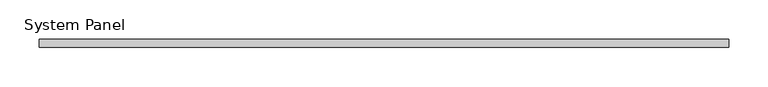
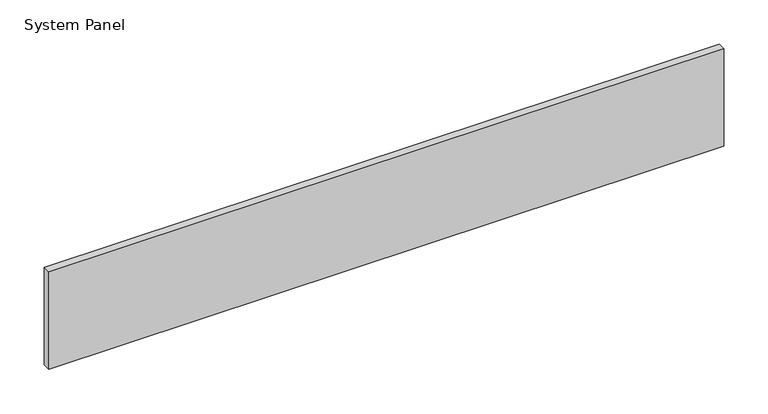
"""IFC4 building model written with IfcOpenShell, lengths in millimetres: plate geometry, System Panel : VACÍO."""

from ifc_helpers import new_model, si_unit, origin, origin_with_axes, place, context, project, spatial, polyline, outline, extrude, source, transform, mapped, element, save


def system_panel_46786032(model_context):
    return source(origin(), model_context, "Body", "SweptSolid", [
        extrude(outline(polyline([(438.0, -5.0), (-438.0, -5.0), (-438.0, 5.0), (438.0, 5.0), (438.0, -5.0)])), origin_with_axes(), (0.0, 0.0, 1.0), 134.0),
    ])


if __name__ == "__main__":
    model = new_model("IFC4")
    model_context = context("Model", 3, world=origin())
    ifc_project = project(units=[si_unit("LENGTHUNIT", "METRE", prefix="MILLI")], contexts=[model_context])
    site = spatial("IfcSite", under=ifc_project)
    building = spatial("IfcBuilding", under=site)
    placement = place(None, origin())
    system_panel_shape = system_panel_46786032(model_context)
    element("IfcPlate", 1, ObjectType="System Panel : VACÍO", at=placement, inside=building, context=model_context, shape_type="MappedRepresentation", body=[
        mapped(system_panel_shape, transform((0.0, 0.0, 0.0), x_axis=(1.0, 0.0, 0.0), y_axis=(0.0, 1.0, 0.0), z_axis=(0.0, 0.0, 1.0))),
    ])
    save(model, "model.ifc")
